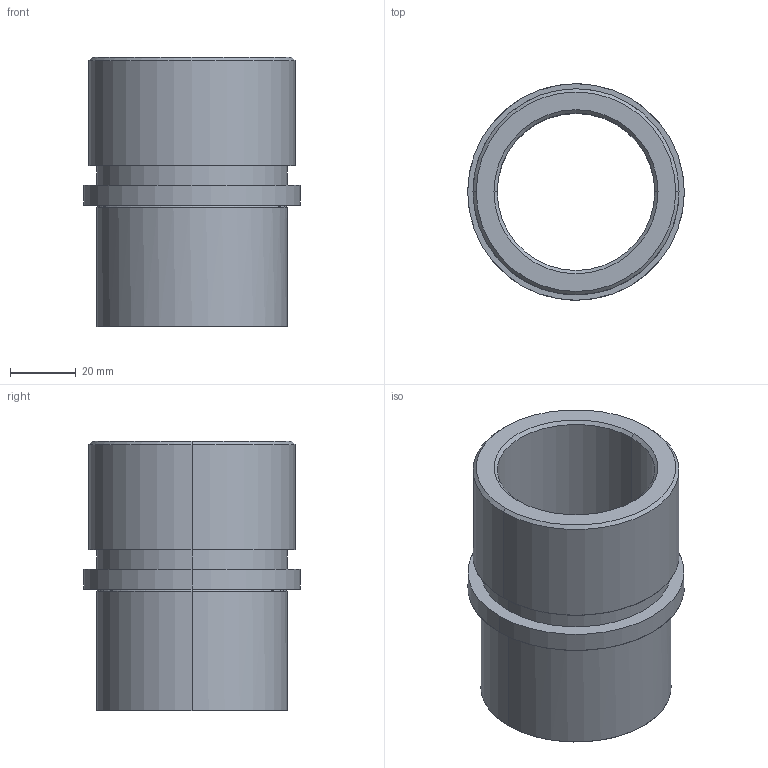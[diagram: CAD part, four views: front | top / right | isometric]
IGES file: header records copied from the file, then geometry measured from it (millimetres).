
Start section: START RECORD GO HERE.
Global section: file name: 735-40.igs; native system: DASSAULT SYSTEMES CATIA V5 R20 - www.3ds.com; preprocessor: CATIA Version 5 Release 20 ; author: Utente; organization: NB04-ASUS; date: 20210116.202112; units: millimetre
Bounding box: 66 x 66 x 82 mm (x, y, z)
Surface area: 32091.4 mm2 (no closed solid volume)
Topology: 0 solids, 0 shells, 25 faces, 100 edges, 100 vertices
Faces by surface type: revolution 20, plane 5
